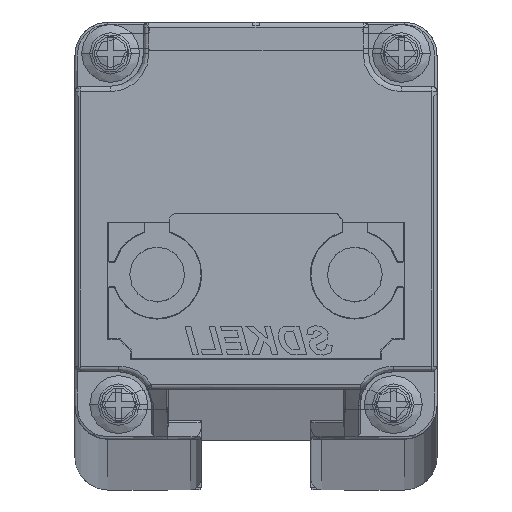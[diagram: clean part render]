
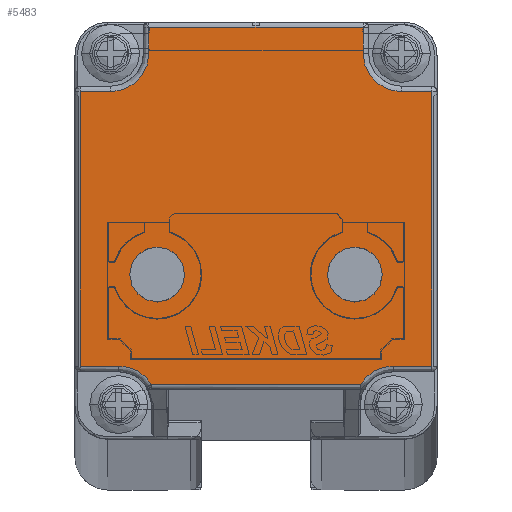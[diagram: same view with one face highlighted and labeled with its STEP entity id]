
A CAD part, top view. The second image highlights one B-rep face of the part: STEP entity #5483.
In plain terms, the highlighted planar face has unit normal (0, 0, 1).
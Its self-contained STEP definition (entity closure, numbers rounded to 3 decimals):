
#2562=CARTESIAN_POINT('',(4.,3.152,730.));
#2563=DIRECTION('',(0.,0.,1.));
#2564=DIRECTION('',(0.849,0.528,0.));
#2565=AXIS2_PLACEMENT_3D('',#2562,#2563,#2564);
#2567=CARTESIAN_POINT('',(3.25,35.15,730.));
#2568=DIRECTION('',(0.,0.,1.));
#2569=DIRECTION('',(0.,-1.,0.));
#2570=AXIS2_PLACEMENT_3D('',#2567,#2568,#2569);
#2572=CARTESIAN_POINT('',(29.75,35.15,730.));
#2573=DIRECTION('',(0.,0.,1.));
#2574=DIRECTION('',(-1.,0.,0.));
#2575=AXIS2_PLACEMENT_3D('',#2572,#2573,#2574);
#2577=CARTESIAN_POINT('',(29.,3.152,730.));
#2578=DIRECTION('',(0.,0.,1.));
#2579=DIRECTION('',(0.,1.,0.));
#2580=AXIS2_PLACEMENT_3D('',#2577,#2578,#2579);
#2582=CARTESIAN_POINT('',(7.5,15.002,730.));
#2583=DIRECTION('',(0.,0.,1.));
#2584=DIRECTION('',(1.,0.007,0.));
#2585=AXIS2_PLACEMENT_3D('',#2582,#2583,#2584);
#2587=CARTESIAN_POINT('',(7.5,15.002,730.));
#2588=DIRECTION('',(0.,0.,1.));
#2589=DIRECTION('',(-1.,-0.007,0.));
#2590=AXIS2_PLACEMENT_3D('',#2587,#2588,#2589);
#2592=CARTESIAN_POINT('',(25.5,15.,730.));
#2593=DIRECTION('',(0.,0.,1.));
#2594=DIRECTION('',(1.,-0.007,0.));
#2595=AXIS2_PLACEMENT_3D('',#2592,#2593,#2594);
#2597=CARTESIAN_POINT('',(25.5,15.,730.));
#2598=DIRECTION('',(0.,0.,1.));
#2599=DIRECTION('',(-1.,0.007,0.));
#2600=AXIS2_PLACEMENT_3D('',#2597,#2598,#2599);
#2642=DIRECTION('',(1.,0.,0.));
#2643=VECTOR('',#2642,19.056);
#2644=CARTESIAN_POINT('',(6.972,5.,730.));
#2645=LINE('',#2644,#2643);
#2967=DIRECTION('',(0.,1.,0.));
#2968=VECTOR('',#2967,2.35);
#2969=CARTESIAN_POINT('',(26.25,35.15,730.));
#2970=LINE('',#2969,#2968);
#2990=DIRECTION('',(-1.,0.,0.));
#2991=VECTOR('',#2990,19.5);
#2992=CARTESIAN_POINT('',(26.25,37.5,730.));
#2993=LINE('',#2992,#2991);
#3014=DIRECTION('',(0.,-1.,0.));
#3015=VECTOR('',#3014,2.35);
#3016=CARTESIAN_POINT('',(6.75,37.5,730.));
#3017=LINE('',#3016,#3015);
#3041=DIRECTION('',(-1.,0.,0.));
#3042=VECTOR('',#3041,2.75);
#3043=CARTESIAN_POINT('',(3.25,31.65,730.));
#3044=LINE('',#3043,#3042);
#3195=DIRECTION('',(0.,-1.,0.));
#3196=VECTOR('',#3195,24.998);
#3197=CARTESIAN_POINT('',(0.5,31.65,730.));
#3198=LINE('',#3197,#3196);
#3234=DIRECTION('',(1.,0.,0.));
#3235=VECTOR('',#3234,3.5);
#3236=CARTESIAN_POINT('',(0.5,6.652,730.));
#3237=LINE('',#3236,#3235);
#3600=DIRECTION('',(-1.,0.,0.));
#3601=VECTOR('',#3600,2.75);
#3602=CARTESIAN_POINT('',(32.5,31.65,730.));
#3603=LINE('',#3602,#3601);
#3750=DIRECTION('',(1.,0.,0.));
#3751=VECTOR('',#3750,3.5);
#3752=CARTESIAN_POINT('',(29.,6.652,730.));
#3753=LINE('',#3752,#3751);
#3785=DIRECTION('',(0.,1.,0.));
#3786=VECTOR('',#3785,24.998);
#3787=CARTESIAN_POINT('',(32.5,6.652,730.));
#3788=LINE('',#3787,#3786);
#4812=CARTESIAN_POINT('',(10.,15.018,730.));
#4813=VERTEX_POINT('',#4812);
#4814=CARTESIAN_POINT('',(5.,14.986,730.));
#4815=VERTEX_POINT('',#4814);
#4816=CARTESIAN_POINT('',(6.972,5.,730.));
#4817=CARTESIAN_POINT('',(4.,6.652,730.));
#4818=VERTEX_POINT('',#4816);
#4819=VERTEX_POINT('',#4817);
#4820=CARTESIAN_POINT('',(0.5,6.652,730.));
#4821=VERTEX_POINT('',#4820);
#4822=CARTESIAN_POINT('',(0.5,31.65,730.));
#4823=VERTEX_POINT('',#4822);
#4824=CARTESIAN_POINT('',(3.25,31.65,730.));
#4825=VERTEX_POINT('',#4824);
#4826=CARTESIAN_POINT('',(6.75,35.15,730.));
#4827=VERTEX_POINT('',#4826);
#4828=CARTESIAN_POINT('',(6.75,37.5,730.));
#4829=VERTEX_POINT('',#4828);
#4830=CARTESIAN_POINT('',(26.25,37.5,730.));
#4831=VERTEX_POINT('',#4830);
#4832=CARTESIAN_POINT('',(26.25,35.15,730.));
#4833=VERTEX_POINT('',#4832);
#4834=CARTESIAN_POINT('',(29.75,31.65,730.));
#4835=VERTEX_POINT('',#4834);
#4836=CARTESIAN_POINT('',(32.5,31.65,730.));
#4837=VERTEX_POINT('',#4836);
#4838=CARTESIAN_POINT('',(32.5,6.652,730.));
#4839=VERTEX_POINT('',#4838);
#4840=CARTESIAN_POINT('',(29.,6.652,730.));
#4841=VERTEX_POINT('',#4840);
#4842=CARTESIAN_POINT('',(26.028,5.,730.));
#4843=VERTEX_POINT('',#4842);
#4844=CARTESIAN_POINT('',(28.,14.984,730.));
#4845=CARTESIAN_POINT('',(23.,15.017,730.));
#4846=VERTEX_POINT('',#4844);
#4847=VERTEX_POINT('',#4845);
#5438=CARTESIAN_POINT('',(16.5,24.,730.));
#5439=DIRECTION('',(0.,0.,1.));
#5440=DIRECTION('',(1.,0.,0.));
#5441=AXIS2_PLACEMENT_3D('',#5438,#5439,#5440);
#5442=PLANE('',#5441);
#5444=ORIENTED_EDGE('',*,*,#5443,.T.);
#5446=ORIENTED_EDGE('',*,*,#5445,.F.);
#5448=ORIENTED_EDGE('',*,*,#5447,.F.);
#5450=ORIENTED_EDGE('',*,*,#5449,.F.);
#5452=ORIENTED_EDGE('',*,*,#5451,.T.);
#5454=ORIENTED_EDGE('',*,*,#5453,.F.);
#5456=ORIENTED_EDGE('',*,*,#5455,.F.);
#5458=ORIENTED_EDGE('',*,*,#5457,.F.);
#5460=ORIENTED_EDGE('',*,*,#5459,.T.);
#5462=ORIENTED_EDGE('',*,*,#5461,.F.);
#5464=ORIENTED_EDGE('',*,*,#5463,.F.);
#5466=ORIENTED_EDGE('',*,*,#5465,.F.);
#5468=ORIENTED_EDGE('',*,*,#5467,.T.);
#5470=ORIENTED_EDGE('',*,*,#5469,.F.);
#5471=EDGE_LOOP('',(#5444,#5446,#5448,#5450,#5452,#5454,#5456,#5458,#5460,#5462,
#5464,#5466,#5468,#5470));
#5472=FACE_OUTER_BOUND('',#5471,.F.);
#5473=ORIENTED_EDGE('',*,*,#5425,.T.);
#5474=ORIENTED_EDGE('',*,*,#5386,.T.);
#5475=EDGE_LOOP('',(#5473,#5474));
#5476=FACE_BOUND('',#5475,.F.);
#5478=ORIENTED_EDGE('',*,*,#5477,.T.);
#5480=ORIENTED_EDGE('',*,*,#5479,.T.);
#5481=EDGE_LOOP('',(#5478,#5480));
#5482=FACE_BOUND('',#5481,.F.);
#2566=CIRCLE('',#2565,3.5);
#2571=CIRCLE('',#2570,3.5);
#2576=CIRCLE('',#2575,3.5);
#2581=CIRCLE('',#2580,3.5);
#2586=CIRCLE('',#2585,2.5);
#2591=CIRCLE('',#2590,2.5);
#2596=CIRCLE('',#2595,2.5);
#2601=CIRCLE('',#2600,2.5);
#5386=EDGE_CURVE('',#4815,#4813,#2591,.T.);
#5425=EDGE_CURVE('',#4813,#4815,#2586,.T.);
#5443=EDGE_CURVE('',#4818,#4819,#2566,.T.);
#5445=EDGE_CURVE('',#4821,#4819,#3237,.T.);
#5447=EDGE_CURVE('',#4823,#4821,#3198,.T.);
#5449=EDGE_CURVE('',#4825,#4823,#3044,.T.);
#5451=EDGE_CURVE('',#4825,#4827,#2571,.T.);
#5453=EDGE_CURVE('',#4829,#4827,#3017,.T.);
#5455=EDGE_CURVE('',#4831,#4829,#2993,.T.);
#5457=EDGE_CURVE('',#4833,#4831,#2970,.T.);
#5459=EDGE_CURVE('',#4833,#4835,#2576,.T.);
#5461=EDGE_CURVE('',#4837,#4835,#3603,.T.);
#5463=EDGE_CURVE('',#4839,#4837,#3788,.T.);
#5465=EDGE_CURVE('',#4841,#4839,#3753,.T.);
#5467=EDGE_CURVE('',#4841,#4843,#2581,.T.);
#5469=EDGE_CURVE('',#4818,#4843,#2645,.T.);
#5477=EDGE_CURVE('',#4846,#4847,#2596,.T.);
#5479=EDGE_CURVE('',#4847,#4846,#2601,.T.);
#5483=ADVANCED_FACE('',(#5472,#5476,#5482),#5442,.T.);
